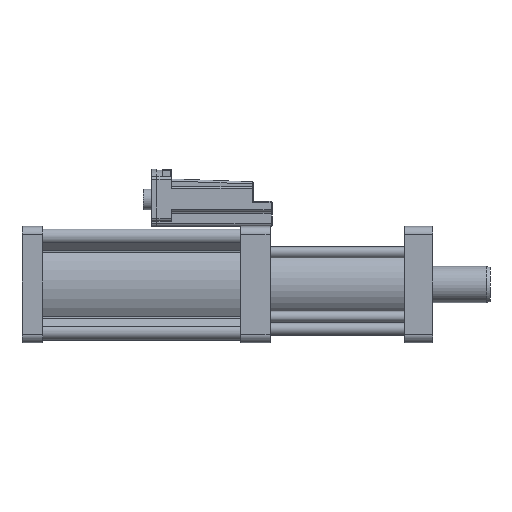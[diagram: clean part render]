
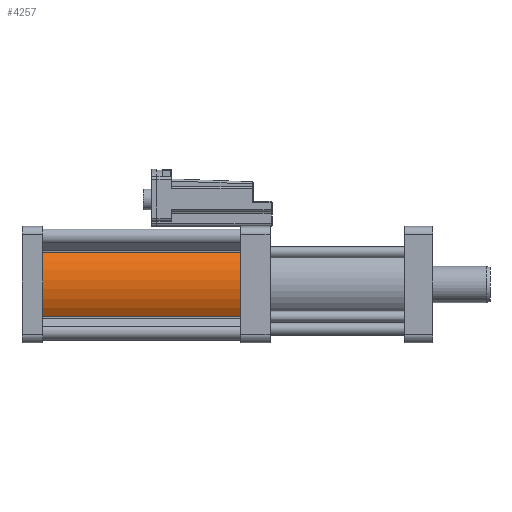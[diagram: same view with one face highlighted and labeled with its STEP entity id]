
A CAD part, left-side view. The second image highlights one B-rep face of the part: STEP entity #4257.
In plain terms, the highlighted cylindrical face has radius 53 mm (diameter 106 mm), a partial arc.
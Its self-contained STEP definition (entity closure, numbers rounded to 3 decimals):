
#84 = CIRCLE ( 'NONE', #11607, 53. ) ;
#493 = LINE ( 'NONE', #10525, #3098 ) ;
#897 = CARTESIAN_POINT ( 'NONE',  ( -43.387, 110., -25.56 ) ) ;
#1035 = CARTESIAN_POINT ( 'NONE',  ( -43.387, 261.321, -25.56 ) ) ;
#1111 = CARTESIAN_POINT ( 'NONE',  ( -43.387, 110., -86.44 ) ) ;
#2619 = CARTESIAN_POINT ( 'NONE',  ( 0., -81., -56. ) ) ;
#2824 = VERTEX_POINT ( 'NONE', #9258 ) ;
#2982 = ORIENTED_EDGE ( 'NONE', *, *, #11407, .F. ) ;
#3098 = VECTOR ( 'NONE', #13827, 1000. ) ;
#3635 = VERTEX_POINT ( 'NONE', #1111 ) ;
#3731 = DIRECTION ( 'NONE',  ( 0., 0., 1. ) ) ;
#4075 = CIRCLE ( 'NONE', #13043, 53. ) ;
#4257 = ADVANCED_FACE ( 'NONE', ( #5274 ), #13364, .T. ) ;
#4504 = DIRECTION ( 'NONE',  ( 0., -1., 0. ) ) ;
#4508 = ORIENTED_EDGE ( 'NONE', *, *, #13523, .T. ) ;
#4615 = CARTESIAN_POINT ( 'NONE',  ( 0., 110., -56. ) ) ;
#5274 = FACE_OUTER_BOUND ( 'NONE', #13003, .T. ) ;
#5714 = DIRECTION ( 'NONE',  ( 0., 0., 1. ) ) ;
#7375 = VERTEX_POINT ( 'NONE', #13963 ) ;
#7390 = LINE ( 'NONE', #1035, #10683 ) ;
#7627 = ORIENTED_EDGE ( 'NONE', *, *, #9772, .T. ) ;
#8035 = AXIS2_PLACEMENT_3D ( 'NONE', #11099, #4504, #12200 ) ;
#8556 = EDGE_CURVE ( 'NONE', #13665, #2824, #7390, .T. ) ;
#9258 = CARTESIAN_POINT ( 'NONE',  ( -43.387, -81., -25.56 ) ) ;
#9296 = ORIENTED_EDGE ( 'NONE', *, *, #8556, .F. ) ;
#9772 = EDGE_CURVE ( 'NONE', #7375, #2824, #84, .T. ) ;
#10356 = DIRECTION ( 'NONE',  ( 0., 1., 0. ) ) ;
#10525 = CARTESIAN_POINT ( 'NONE',  ( -43.387, 261.321, -86.44 ) ) ;
#10683 = VECTOR ( 'NONE', #14236, 1000. ) ;
#11099 = CARTESIAN_POINT ( 'NONE',  ( 0., 261.321, -56. ) ) ;
#11407 = EDGE_CURVE ( 'NONE', #3635, #13665, #4075, .T. ) ;
#11607 = AXIS2_PLACEMENT_3D ( 'NONE', #2619, #10356, #3731 ) ;
#12200 = DIRECTION ( 'NONE',  ( 0., 0., -1. ) ) ;
#12313 = DIRECTION ( 'NONE',  ( 0., 1., 0. ) ) ;
#13003 = EDGE_LOOP ( 'NONE', ( #2982, #4508, #7627, #9296 ) ) ;
#13043 = AXIS2_PLACEMENT_3D ( 'NONE', #4615, #12313, #5714 ) ;
#13364 = CYLINDRICAL_SURFACE ( 'NONE', #8035, 53. ) ;
#13523 = EDGE_CURVE ( 'NONE', #3635, #7375, #493, .T. ) ;
#13665 = VERTEX_POINT ( 'NONE', #897 ) ;
#13827 = DIRECTION ( 'NONE',  ( 0., -1., 0. ) ) ;
#13963 = CARTESIAN_POINT ( 'NONE',  ( -43.387, -81., -86.44 ) ) ;
#14236 = DIRECTION ( 'NONE',  ( 0., -1., 0. ) ) ;
